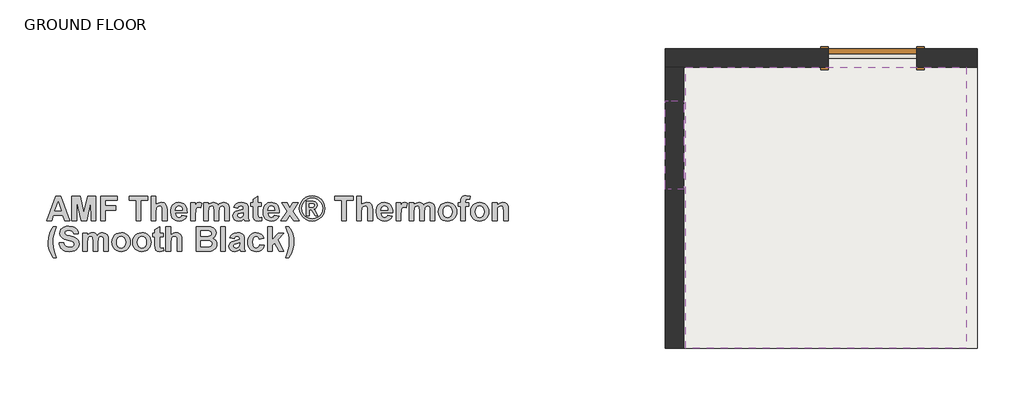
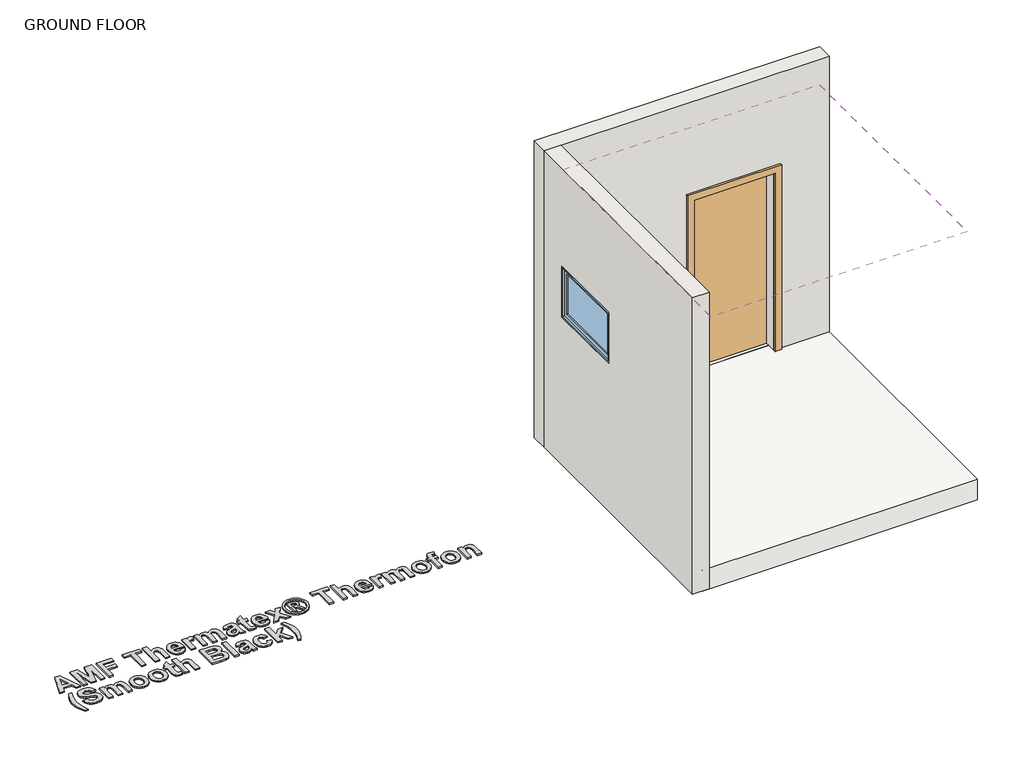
# One storey: 2 walls, 1 covering, 1 door, 1 proxy, 1 slab, 1 window.
"""IFC4 building model written with IfcOpenShell, lengths in millimetres."""

from ifc_helpers import new_model, si_unit, frame, origin, origin_with_axes, place, context, project, spatial, polyline, outline, extrude, faceted_brep, transform, mapped, element, save
from components import m_single_flush_0915_x_2134mm_f5238887, m_fixed_0915_x_0610mm_e83bb20a

model = new_model("IFC4")

# Units and contexts
model_context = context("Model", 3, world=origin())
ifc_project = project(units=[si_unit("LENGTHUNIT", "METRE", prefix="MILLI")], contexts=[model_context])

# Site, building, storey
site = spatial("IfcSite", under=ifc_project)
building = spatial("IfcBuilding", under=site)
storey = spatial("IfcBuildingStorey", under=building, Name="GROUND FLOOR", Elevation=0.0)

# Proxy
placement = place(None, origin())
element("IfcBuildingElementProxy", 1, Name="600mm Arial", ObjectType="600mm Arial", at=placement, inside=storey, context=model_context, shape_type="SweptSolid", body=[
    extrude(outline(polyline([(-7411.3659202, -26437.2370141), (-7462.4168463, -26437.2370141), (-7482.4070478, -26380.5559363), (-7578.752228, -26380.5559363), (-7598.489389, -26437.2370141), (-7650.2361766, -26437.2370141), (-7557.1172631, -26182.1721641), (-7505.3704756, -26182.1721641), (-7411.3659202, -26437.2370141)]), holes=[polyline([(-7497.9690402, -26336.0208038), (-7530.8010484, -26242.9018903), (-7563.1902357, -26336.0208038), (-7497.9690402, -26336.0208038)])]), origin_with_axes(), (0.0, 0.0, 1.0), 15.0),
    extrude(outline(polyline([(-7387.0740298, -26437.2370141), (-7387.0740298, -26182.1721641), (-7303.8236968, -26182.1721641), (-7263.5902532, -26356.1375256), (-7223.3568096, -26182.1721641), (-7140.1064766, -26182.1721641), (-7140.1064766, -26437.2370141), (-7188.6902575, -26437.2370141), (-7190.7145817, -26236.4493569), (-7235.123194, -26437.2370141), (-7291.9940522, -26437.2370141), (-7336.4659246, -26236.4493569), (-7338.4902488, -26437.2370141), (-7387.0740298, -26437.2370141)])), origin_with_axes(), (0.0, 0.0, 1.0), 15.0),
    extrude(outline(polyline([(-7091.5226956, -26437.2370141), (-7091.5226956, -26182.1721641), (-6917.4308139, -26182.1721641), (-6917.4308139, -26226.7072966), (-7042.9389147, -26226.7072966), (-7042.9389147, -26283.3883744), (-6933.6254076, -26283.3883744), (-6933.6254076, -26327.9235069), (-7042.9389147, -26327.9235069), (-7042.9389147, -26437.2370141), (-7091.5226956, -26437.2370141)])), origin_with_axes(), (0.0, 0.0, 1.0), 15.0),
    extrude(outline(polyline([(-6723.0956901, -26437.2370141), (-6723.0956901, -26226.7072966), (-6795.9713615, -26226.7072966), (-6795.9713615, -26182.1721641), (-6601.6362377, -26182.1721641), (-6601.6362377, -26226.7072966), (-6674.5119092, -26226.7072966), (-6674.5119092, -26437.2370141), (-6723.0956901, -26437.2370141)])), origin_with_axes(), (0.0, 0.0, 1.0), 15.0),
    extrude(outline(polyline([(-6520.6632695, -26182.1721641), (-6520.6632695, -26274.531956), (-6508.4580179, -26262.4650859), (-6495.1219914, -26253.845893), (-6480.6551901, -26248.6743773), (-6465.0576139, -26246.9505387), (-6449.2425811, -26248.5241345), (-6435.0723116, -26253.2449218), (-6423.3691873, -26260.4249467), (-6414.9555898, -26269.3762553), (-6405.7196106, -26291.1061104), (-6403.2524655, -26328.0500272), (-6403.2524655, -26437.2370141), (-6451.8362465, -26437.2370141), (-6451.8362465, -26338.1716482), (-6454.5564321, -26300.6900203), (-6464.1719721, -26288.0696241), (-6481.3787278, -26283.3883744), (-6492.6390312, -26284.8908025), (-6502.634132, -26289.3980869), (-6510.7393364, -26296.9260425), (-6516.3299505, -26307.4904845), (-6520.6632695, -26343.2957189), (-6520.6632695, -26437.2370141), (-6569.2470504, -26437.2370141), (-6569.2470504, -26182.1721641), (-6520.6632695, -26182.1721641)])), origin_with_axes(), (0.0, 0.0, 1.0), 15.0),
    extrude(outline(polyline([(-6249.4038258, -26380.5559363), (-6200.8200449, -26388.6532331), (-6212.6496895, -26411.3240827), (-6229.7931851, -26427.8428846), (-6252.0765664, -26437.924968), (-6279.325868, -26441.2856625), (-6301.3285325, -26439.3048296), (-6320.2709881, -26433.362331), (-6336.1532348, -26423.4581667), (-6348.9752727, -26409.5923366), (-6362.3547905, -26380.888052), (-6366.8146298, -26345.5098235), (-6365.3359242, -26323.6692631), (-6360.8998075, -26304.3274779), (-6353.5062796, -26287.4844679), (-6343.1553406, -26273.1402331), (-6330.5428519, -26261.6822418), (-6316.364675, -26253.4979623), (-6300.6208098, -26248.5873946), (-6283.3112563, -26246.9505387), (-6264.0762226, -26248.6308859), (-6246.9841258, -26253.6719277), (-6232.034966, -26262.0736639), (-6219.2287431, -26273.8360945), (-6209.0240932, -26289.069925), (-6201.8796521, -26307.8858603), (-6197.7954199, -26330.2839006), (-6196.7713965, -26356.2640458), (-6318.2308488, -26356.2640458), (-6315.1152874, -26376.7286983), (-6306.7807651, -26392.0692802), (-6294.4924845, -26401.6531901), (-6279.5156484, -26404.8478268), (-6269.3149522, -26403.4086588), (-6260.8539096, -26399.0911548), (-6254.1957808, -26391.5790142), (-6249.4038258, -26380.5559363)]), holes=[polyline([(-6245.3551774, -26327.9235069), (-6248.3125886, -26308.7161495), (-6256.1726599, -26294.743568), (-6267.5911136, -26286.2271728), (-6281.223672, -26283.3883744), (-6295.6153519, -26286.3774156), (-6307.2868461, -26295.3445392), (-6314.941322, -26309.4989937), (-6317.4084671, -26327.9235069), (-6245.3551774, -26327.9235069)])]), origin_with_axes(), (0.0, 0.0, 1.0), 15.0),
    extrude(outline(polyline([(-6111.7497798, -26437.2370141), (-6160.3335608, -26437.2370141), (-6160.3335608, -26250.9991871), (-6111.7497798, -26250.9991871), (-6111.7497798, -26276.935841), (-6092.3289195, -26252.7388407), (-6072.7182787, -26246.9505387), (-6057.5516622, -26249.512574), (-6042.9227568, -26257.19868), (-6057.0930262, -26303.4418361), (-6068.7961506, -26297.5111987), (-6079.613633, -26295.5343196), (-6096.7254986, -26301.0695811), (-6102.9724366, -26308.8268548), (-6107.7327615, -26321.0281526), (-6111.7497798, -26381.5048383), (-6111.7497798, -26437.2370141)])), origin_with_axes(), (0.0, 0.0, 1.0), 15.0),
    extrude(outline(polyline([(-6026.7281631, -26250.9991871), (-5978.1443822, -26250.9991871), (-5978.1443822, -26275.9236789), (-5966.1842636, -26263.24793), (-5953.1408152, -26254.1938237), (-5939.0140371, -26248.7613599), (-5923.8039293, -26246.9505387), (-5908.1549543, -26248.7297299), (-5894.7358989, -26254.0673035), (-5883.5309481, -26263.0107046), (-5874.5242869, -26275.6073782), (-5862.0857635, -26263.0107046), (-5848.6825232, -26254.0673035), (-5834.3303809, -26248.7297299), (-5819.0451516, -26246.9505387), (-5800.5890083, -26249.0302155), (-5785.2009813, -26255.269246), (-5773.0866661, -26265.5411098), (-5764.4516582, -26279.7192868), (-5760.7509405, -26295.2970941), (-5759.5173679, -26318.2447068), (-5759.5173679, -26437.2370141), (-5808.1011489, -26437.2370141), (-5808.1011489, -26330.0110913), (-5809.3347214, -26307.0634786), (-5813.0354391, -26294.0160765), (-5821.4174065, -26286.0452999), (-5833.4052014, -26283.3883744), (-5843.1077241, -26284.9777852), (-5852.2250906, -26289.7460176), (-5859.8163063, -26297.5823664), (-5864.940377, -26308.3761263), (-5868.8308751, -26347.1545869), (-5868.8308751, -26437.2370141), (-5917.414656, -26437.2370141), (-5917.414656, -26334.4393005), (-5919.9450613, -26299.1085171), (-5927.7576875, -26287.2788725), (-5942.1493674, -26283.3883744), (-5952.539844, -26284.9303401), (-5961.8232683, -26289.5562372), (-5969.3195939, -26297.1000079), (-5974.3487743, -26307.3955943), (-5978.1443822, -26346.0791647), (-5978.1443822, -26437.2370141), (-6026.7281631, -26437.2370141), (-6026.7281631, -26250.9991871)])), origin_with_axes(), (0.0, 0.0, 1.0), 15.0),
    extrude(outline(polyline([(-5670.4471028, -26307.6802649), (-5714.9822354, -26299.582968), (-5705.3271578, -26276.2399795), (-5690.5321946, -26259.8556055), (-5668.9683973, -26250.1768054), (-5639.0068175, -26246.9505387), (-5611.9156662, -26248.9036952), (-5592.7636614, -26254.7631649), (-5579.8269645, -26263.6195833), (-5571.381737, -26274.5635861), (-5566.7321173, -26291.5726539), (-5565.1822441, -26318.6242676), (-5565.1822441, -26376.064467), (-5562.6202088, -26412.2492622), (-5553.0362989, -26437.2370141), (-5601.6200798, -26437.2370141), (-5606.1748093, -26421.801542), (-5607.8828328, -26415.6653093), (-5633.8827469, -26434.8647591), (-5648.1953516, -26439.6804367), (-5663.4252283, -26441.2856625), (-5688.1994772, -26437.3872569), (-5707.106349, -26425.6920401), (-5719.0862364, -26408.0503709), (-5723.0795322, -26386.3126083), (-5721.300341, -26371.4148473), (-5715.9627674, -26358.2251099), (-5707.4147422, -26347.3285523), (-5696.0041959, -26339.3103306), (-5658.9970191, -26327.8602468), (-5613.7660251, -26315.7775617), (-5613.7660251, -26310.6534911), (-5615.2763607, -26298.0330948), (-5619.8073676, -26289.6511274), (-5628.5135432, -26284.9540627), (-5642.5493849, -26283.3883744), (-5652.6235608, -26284.7326522), (-5660.1989616, -26288.7654856), (-5670.4471028, -26307.6802649)]), holes=[polyline([(-5613.7660251, -26352.2153974), (-5641.157662, -26358.9526014), (-5665.702593, -26366.6387074), (-5672.2974617, -26373.5498767), (-5674.4957513, -26382.1374396), (-5672.7323751, -26390.748725), (-5667.4422466, -26398.1106228), (-5659.4319325, -26403.1635258), (-5649.5079993, -26404.8478268), (-5637.5992796, -26402.8867627), (-5626.2915311, -26397.0035705), (-5615.5373087, -26382.4537402), (-5613.7660251, -26361.0085557), (-5613.7660251, -26352.2153974)])]), origin_with_axes(), (0.0, 0.0, 1.0), 15.0),
    extrude(outline(polyline([(-5427.5281981, -26250.9991871), (-5427.5281981, -26287.4370228), (-5463.9660338, -26287.4370228), (-5463.9660338, -26367.3345688), (-5462.8589815, -26395.5802175), (-5457.8298011, -26402.2225313), (-5448.2775212, -26404.8478268), (-5425.5038739, -26400.166577), (-5423.4795497, -26434.7066088), (-5442.2203636, -26439.6408991), (-5463.2701724, -26441.2856625), (-5487.8151034, -26436.730933), (-5503.8515467, -26424.9645486), (-5510.9683115, -26405.417168), (-5512.5498148, -26370.0547545), (-5512.5498148, -26287.4370228), (-5536.8417052, -26287.4370228), (-5536.8417052, -26250.9991871), (-5512.5498148, -26250.9991871), (-5512.5498148, -26214.5613514), (-5463.9660338, -26186.2208125), (-5463.9660338, -26250.9991871), (-5427.5281981, -26250.9991871)])), origin_with_axes(), (0.0, 0.0, 1.0), 15.0),
    extrude(outline(polyline([(-5293.9228005, -26380.5559363), (-5245.3390195, -26388.6532331), (-5257.1686641, -26411.3240827), (-5274.3121597, -26427.8428846), (-5296.595541, -26437.924968), (-5323.8448427, -26441.2856625), (-5345.8475071, -26439.3048296), (-5364.7899627, -26433.362331), (-5380.6722095, -26423.4581667), (-5393.4942474, -26409.5923366), (-5406.8737652, -26380.888052), (-5411.3336044, -26345.5098235), (-5409.8548989, -26323.6692631), (-5405.4187822, -26304.3274779), (-5398.0252543, -26287.4844679), (-5387.6743153, -26273.1402331), (-5375.0618266, -26261.6822418), (-5360.8836496, -26253.4979623), (-5345.1397844, -26248.5873946), (-5327.8302309, -26246.9505387), (-5308.5951972, -26248.6308859), (-5291.5031005, -26253.6719277), (-5276.5539406, -26262.0736639), (-5263.7477178, -26273.8360945), (-5253.5430678, -26289.069925), (-5246.3986267, -26307.8858603), (-5242.3143945, -26330.2839006), (-5241.2903711, -26356.2640458), (-5362.7498235, -26356.2640458), (-5359.634262, -26376.7286983), (-5351.2997397, -26392.0692802), (-5339.0114592, -26401.6531901), (-5324.034623, -26404.8478268), (-5313.8339269, -26403.4086588), (-5305.3728843, -26399.0911548), (-5298.7147554, -26391.5790142), (-5293.9228005, -26380.5559363)]), holes=[polyline([(-5289.8741521, -26327.9235069), (-5292.8315632, -26308.7161495), (-5300.6916345, -26294.743568), (-5312.1100883, -26286.2271728), (-5325.7426466, -26283.3883744), (-5340.1343265, -26286.3774156), (-5351.8058208, -26295.3445392), (-5359.4602967, -26309.4989937), (-5361.9274418, -26327.9235069), (-5289.8741521, -26327.9235069)])]), origin_with_axes(), (0.0, 0.0, 1.0), 15.0),
    extrude(outline(polyline([(-5227.1201017, -26437.2370141), (-5161.329565, -26341.3346548), (-5219.0228048, -26250.9991871), (-5161.2663048, -26250.9991871), (-5133.1788065, -26302.1766334), (-5102.6874231, -26250.9991871), (-5044.9309231, -26250.9991871), (-5104.3321865, -26339.1838103), (-5036.8336263, -26437.2370141), (-5094.5901263, -26437.2370141), (-5133.1788065, -26379.5437742), (-5169.3636017, -26437.2370141), (-5227.1201017, -26437.2370141)])), origin_with_axes(), (0.0, 0.0, 1.0), 15.0),
    extrude(outline(polyline([(-4903.2282287, -26178.1235157), (-4870.0720123, -26182.354037), (-4838.2917037, -26195.0456008), (-4810.5284136, -26215.6367736), (-4789.4232522, -26243.5661217), (-4776.0911795, -26275.8999563), (-4771.6471553, -26309.7045891), (-4776.0041968, -26343.2640888), (-4789.0753215, -26375.2420853), (-4809.9432573, -26402.9895604), (-4837.6907325, -26423.8574963), (-4869.6687289, -26436.9286209), (-4903.2282287, -26441.2856625), (-4936.7877284, -26436.9286209), (-4968.7657248, -26423.8574963), (-4996.5132, -26402.9895604), (-5017.3811359, -26375.2420853), (-5030.4522605, -26343.2640888), (-5034.8093021, -26309.7045891), (-5030.3652778, -26275.8999563), (-5017.0332051, -26243.5661217), (-4995.9280438, -26215.6367736), (-4968.1647536, -26195.0456008), (-4936.3844451, -26182.354037), (-4903.2282287, -26178.1235157)]), holes=[polyline([(-4903.2914888, -26202.4154061), (-4930.2956574, -26205.8551758), (-4956.1453286, -26216.1744847), (-4978.7371031, -26232.9305121), (-4995.9675814, -26255.6804368), (-5006.879954, -26282.0440966), (-5010.5174116, -26309.6413289), (-5006.9669367, -26337.0092433), (-4996.3155121, -26363.06451), (-4979.2985367, -26385.6800069), (-4956.6514097, -26402.7286124), (-4930.580328, -26413.4274821), (-4903.2914888, -26416.993772), (-4875.931482, -26413.4274821), (-4849.8999379, -26402.7286124), (-4827.3002559, -26385.6800069), (-4810.2358354, -26363.06451), (-4799.5132432, -26337.0092433), (-4795.9390457, -26309.6413289), (-4799.5765033, -26282.0440966), (-4810.488876, -26255.6804368), (-4827.7430768, -26232.9305121), (-4850.4060189, -26216.1744847), (-4876.3110427, -26205.8551758), (-4903.2914888, -26202.4154061)])]), origin_with_axes(), (0.0, 0.0, 1.0), 15.0),
    extrude(outline(polyline([(-4961.9336307, -26384.6045847), (-4961.9336307, -26234.8045934), (-4934.5419937, -26234.8045934), (-4891.4618442, -26235.1841542), (-4870.3013303, -26241.1622367), (-4857.680934, -26255.5539166), (-4852.6201235, -26276.9991011), (-4854.9686559, -26292.0233823), (-4862.014253, -26304.7070387), (-4873.314094, -26314.0379081), (-4888.4253579, -26319.0038284), (-4878.6516676, -26324.6339801), (-4869.194278, -26336.147324), (-4858.8828765, -26354.3662419), (-4844.5228267, -26384.6045847), (-4872.8633656, -26384.6045847), (-4886.8438546, -26360.6289949), (-4908.2574091, -26330.1376115), (-4916.4733187, -26325.4405468), (-4926.6344773, -26323.8748585), (-4933.5930918, -26323.8748585), (-4933.5930918, -26384.6045847), (-4961.9336307, -26384.6045847)]), holes=[polyline([(-4933.5930918, -26299.582968), (-4922.5225688, -26299.582968), (-4893.2331279, -26297.5902739), (-4884.2501892, -26290.5683993), (-4880.9606624, -26279.1499456), (-4884.1869291, -26268.1110527), (-4893.3596482, -26261.1840683), (-4922.5225688, -26259.0964839), (-4933.5930918, -26259.0964839), (-4933.5930918, -26299.582968)])]), origin_with_axes(), (0.0, 0.0, 1.0), 15.0),
    extrude(outline(polyline([(-4597.5552735, -26437.2370141), (-4597.5552735, -26226.7072966), (-4670.430945, -26226.7072966), (-4670.430945, -26182.1721641), (-4476.0958211, -26182.1721641), (-4476.0958211, -26226.7072966), (-4548.9714926, -26226.7072966), (-4548.9714926, -26437.2370141), (-4597.5552735, -26437.2370141)])), origin_with_axes(), (0.0, 0.0, 1.0), 15.0),
    extrude(outline(polyline([(-4395.1228529, -26182.1721641), (-4395.1228529, -26274.531956), (-4382.9176013, -26262.4650859), (-4369.5815748, -26253.845893), (-4355.1147735, -26248.6743773), (-4339.5171974, -26246.9505387), (-4323.7021645, -26248.5241345), (-4309.5318951, -26253.2449218), (-4297.8287707, -26260.4249467), (-4289.4151733, -26269.3762553), (-4280.1791941, -26291.1061104), (-4277.7120489, -26328.0500272), (-4277.7120489, -26437.2370141), (-4326.2958299, -26437.2370141), (-4326.2958299, -26338.1716482), (-4329.0160155, -26300.6900203), (-4338.6315555, -26288.0696241), (-4355.8383113, -26283.3883744), (-4367.0986147, -26284.8908025), (-4377.0937154, -26289.3980869), (-4385.1989198, -26296.9260425), (-4390.7895339, -26307.4904845), (-4395.1228529, -26343.2957189), (-4395.1228529, -26437.2370141), (-4443.7066338, -26437.2370141), (-4443.7066338, -26182.1721641), (-4395.1228529, -26182.1721641)])), origin_with_axes(), (0.0, 0.0, 1.0), 15.0),
    extrude(outline(polyline([(-4123.8634093, -26380.5559363), (-4075.2796283, -26388.6532331), (-4087.1092729, -26411.3240827), (-4104.2527685, -26427.8428846), (-4126.5361498, -26437.924968), (-4153.7854514, -26441.2856625), (-4175.7881159, -26439.3048296), (-4194.7305715, -26433.362331), (-4210.6128183, -26423.4581667), (-4223.4348562, -26409.5923366), (-4236.814374, -26380.888052), (-4241.2742132, -26345.5098235), (-4239.7955077, -26323.6692631), (-4235.3593909, -26304.3274779), (-4227.9658631, -26287.4844679), (-4217.6149241, -26273.1402331), (-4205.0024354, -26261.6822418), (-4190.8242584, -26253.4979623), (-4175.0803932, -26248.5873946), (-4157.7708397, -26246.9505387), (-4138.535806, -26248.6308859), (-4121.4437092, -26253.6719277), (-4106.4945494, -26262.0736639), (-4093.6883266, -26273.8360945), (-4083.4836766, -26289.069925), (-4076.3392355, -26307.8858603), (-4072.2550033, -26330.2839006), (-4071.2309799, -26356.2640458), (-4192.6904323, -26356.2640458), (-4189.5748708, -26376.7286983), (-4181.2403485, -26392.0692802), (-4168.9520679, -26401.6531901), (-4153.9752318, -26404.8478268), (-4143.7745356, -26403.4086588), (-4135.3134931, -26399.0911548), (-4128.6553642, -26391.5790142), (-4123.8634093, -26380.5559363)]), holes=[polyline([(-4119.8147608, -26327.9235069), (-4122.772172, -26308.7161495), (-4130.6322433, -26294.743568), (-4142.050697, -26286.2271728), (-4155.6832554, -26283.3883744), (-4170.0749353, -26286.3774156), (-4181.7464295, -26295.3445392), (-4189.4009054, -26309.4989937), (-4191.8680506, -26327.9235069), (-4119.8147608, -26327.9235069)])]), origin_with_axes(), (0.0, 0.0, 1.0), 15.0),
    extrude(outline(polyline([(-3986.2093632, -26437.2370141), (-4034.7931442, -26437.2370141), (-4034.7931442, -26250.9991871), (-3986.2093632, -26250.9991871), (-3986.2093632, -26276.935841), (-3966.7885029, -26252.7388407), (-3947.1778621, -26246.9505387), (-3932.0112456, -26249.512574), (-3917.3823402, -26257.19868), (-3931.5526097, -26303.4418361), (-3943.255734, -26297.5111987), (-3954.0732165, -26295.5343196), (-3971.185082, -26301.0695811), (-3977.43202, -26308.8268548), (-3982.1923449, -26321.0281526), (-3986.2093632, -26381.5048383), (-3986.2093632, -26437.2370141)])), origin_with_axes(), (0.0, 0.0, 1.0), 15.0),
    extrude(outline(polyline([(-3901.1877466, -26250.9991871), (-3852.6039656, -26250.9991871), (-3852.6039656, -26275.9236789), (-3840.643847, -26263.24793), (-3827.6003987, -26254.1938237), (-3813.4736206, -26248.7613599), (-3798.2635127, -26246.9505387), (-3782.6145377, -26248.7297299), (-3769.1954823, -26254.0673035), (-3757.9905315, -26263.0107046), (-3748.9838703, -26275.6073782), (-3736.545347, -26263.0107046), (-3723.1421066, -26254.0673035), (-3708.7899643, -26248.7297299), (-3693.504735, -26246.9505387), (-3675.0485917, -26249.0302155), (-3659.6605647, -26255.269246), (-3647.5462495, -26265.5411098), (-3638.9112416, -26279.7192868), (-3635.2105239, -26295.2970941), (-3633.9769513, -26318.2447068), (-3633.9769513, -26437.2370141), (-3682.5607323, -26437.2370141), (-3682.5607323, -26330.0110913), (-3683.7943049, -26307.0634786), (-3687.4950225, -26294.0160765), (-3695.87699, -26286.0452999), (-3707.8647849, -26283.3883744), (-3717.5673075, -26284.9777852), (-3726.684674, -26289.7460176), (-3734.2758898, -26297.5823664), (-3739.3999604, -26308.3761263), (-3743.2904585, -26347.1545869), (-3743.2904585, -26437.2370141), (-3791.8742394, -26437.2370141), (-3791.8742394, -26334.4393005), (-3794.4046447, -26299.1085171), (-3802.2172709, -26287.2788725), (-3816.6089508, -26283.3883744), (-3826.9994274, -26284.9303401), (-3836.2828517, -26289.5562372), (-3843.7791773, -26297.1000079), (-3848.8083577, -26307.3955943), (-3852.6039656, -26346.0791647), (-3852.6039656, -26437.2370141), (-3901.1877466, -26437.2370141), (-3901.1877466, -26250.9991871)])), origin_with_axes(), (0.0, 0.0, 1.0), 15.0),
    extrude(outline(polyline([(-3597.5391156, -26341.4611751), (-3594.5421669, -26317.3669725), (-3585.5513207, -26294.0477065), (-3571.0726581, -26273.828187), (-3551.6122602, -26259.0332238), (-3528.3799769, -26249.97121), (-3502.5856583, -26246.9505387), (-3482.5934799, -26248.662516), (-3464.4951517, -26253.7984479), (-3448.2906736, -26262.3583345), (-3433.9800458, -26274.3421756), (-3422.2868059, -26288.9434047), (-3413.9344916, -26305.355455), (-3408.9231031, -26323.5783267), (-3407.2526402, -26343.6120195), (-3408.940895, -26363.8058396), (-3414.0056593, -26382.1927922), (-3422.4469331, -26398.7728773), (-3434.2647164, -26413.5460948), (-3448.6405812, -26425.6821557), (-3464.7560997, -26434.3507706), (-3482.6112718, -26439.5519395), (-3502.2060975, -26441.2856625), (-3526.9803465, -26438.399419), (-3550.568468, -26429.7406885), (-3570.8117101, -26415.4992514), (-3585.5513207, -26395.8648881), (-3594.5421669, -26371.0985466), (-3597.5391156, -26341.4611751)]), holes=[polyline([(-3548.9553347, -26344.1181006), (-3545.5946402, -26370.0942921), (-3535.5125567, -26389.1909442), (-3520.496183, -26400.9336061), (-3502.3326178, -26404.8478268), (-3484.1848676, -26400.9336061), (-3469.215939, -26389.1909442), (-3459.1813006, -26369.9994019), (-3455.8364212, -26343.7385398), (-3459.1813006, -26318.0470189), (-3469.215939, -26299.0452569), (-3484.1848676, -26287.302595), (-3502.3326178, -26283.3883744), (-3520.496183, -26287.302595), (-3535.5125567, -26299.0452569), (-3545.5946402, -26318.1419091), (-3548.9553347, -26344.1181006)])]), origin_with_axes(), (0.0, 0.0, 1.0), 15.0),
    extrude(outline(polyline([(-3391.0580466, -26250.9991871), (-3366.7661561, -26250.9991871), (-3366.7661561, -26237.3982588), (-3365.5325836, -26217.5187625), (-3361.8318659, -26203.4275683), (-3354.8258063, -26193.2664096), (-3343.6762081, -26185.1770203), (-3328.699372, -26179.8868918), (-3310.2115986, -26178.1235157), (-3269.5985942, -26184.1964883), (-3275.6715668, -26217.281537), (-3298.2554338, -26214.5613514), (-3307.3886152, -26215.7791089), (-3313.5327555, -26219.4323815), (-3317.0199703, -26226.5491463), (-3318.1823752, -26238.1573804), (-3318.1823752, -26250.9991871), (-3281.7445395, -26250.9991871), (-3281.7445395, -26287.4370228), (-3318.1823752, -26287.4370228), (-3318.1823752, -26437.2370141), (-3366.7661561, -26437.2370141), (-3366.7661561, -26287.4370228), (-3391.0580466, -26287.4370228), (-3391.0580466, -26250.9991871)])), origin_with_axes(), (0.0, 0.0, 1.0), 15.0),
    extrude(outline(polyline([(-3265.5499458, -26341.4611751), (-3262.5529971, -26317.3669725), (-3253.5621509, -26294.0477065), (-3239.0834883, -26273.828187), (-3219.6230904, -26259.0332238), (-3196.3908071, -26249.97121), (-3170.5964885, -26246.9505387), (-3150.6043101, -26248.662516), (-3132.5059819, -26253.7984479), (-3116.3015038, -26262.3583345), (-3101.990876, -26274.3421756), (-3090.297636, -26288.9434047), (-3081.9453218, -26305.355455), (-3076.9339333, -26323.5783267), (-3075.2634704, -26343.6120195), (-3076.9517252, -26363.8058396), (-3082.0164894, -26382.1927922), (-3090.4577632, -26398.7728773), (-3102.2755465, -26413.5460948), (-3116.6514114, -26425.6821557), (-3132.7669299, -26434.3507706), (-3150.622102, -26439.5519395), (-3170.2169277, -26441.2856625), (-3194.9911767, -26438.399419), (-3218.5792982, -26429.7406885), (-3238.8225403, -26415.4992514), (-3253.5621509, -26395.8648881), (-3262.5529971, -26371.0985466), (-3265.5499458, -26341.4611751)]), holes=[polyline([(-3216.9661649, -26344.1181006), (-3213.6054704, -26370.0942921), (-3203.5233869, -26389.1909442), (-3188.5070132, -26400.9336061), (-3170.343448, -26404.8478268), (-3152.1956978, -26400.9336061), (-3137.2267692, -26389.1909442), (-3127.1921308, -26369.9994019), (-3123.8472514, -26343.7385398), (-3127.1921308, -26318.0470189), (-3137.2267692, -26299.0452569), (-3152.1956978, -26287.302595), (-3170.343448, -26283.3883744), (-3188.5070132, -26287.302595), (-3203.5233869, -26299.0452569), (-3213.6054704, -26318.1419091), (-3216.9661649, -26344.1181006)])]), origin_with_axes(), (0.0, 0.0, 1.0), 15.0),
    extrude(outline(polyline([(-2872.8310498, -26437.2370141), (-2921.4148307, -26437.2370141), (-2921.4148307, -26341.5244352), (-2924.451317, -26302.1766334), (-2934.3831577, -26288.3226647), (-2950.894052, -26283.3883744), (-2962.6525289, -26285.1517506), (-2973.1299882, -26290.4418791), (-2981.4170654, -26298.6498811), (-2986.6043962, -26309.166878), (-2990.2418538, -26352.2786575), (-2990.2418538, -26437.2370141), (-3038.8256347, -26437.2370141), (-3038.8256347, -26250.9991871), (-2990.2418538, -26250.9991871), (-2990.2418538, -26277.8214828), (-2977.9496195, -26264.3154448), (-2964.1628646, -26254.6682747), (-2948.8815891, -26248.8799727), (-2932.105793, -26246.9505387), (-2903.8917743, -26252.8337309), (-2884.5341741, -26267.8263821), (-2875.3930851, -26288.480815), (-2872.8310498, -26321.5974938), (-2872.8310498, -26437.2370141)])), origin_with_axes(), (0.0, 0.0, 1.0), 15.0),
    extrude(outline(polyline([(-7549.0199663, -26820.8424117), (-7581.4091536, -26820.8424117), (-7604.0800032, -26781.1704018), (-7620.598805, -26739.9643336), (-7630.6808884, -26698.6633753), (-7634.0415829, -26658.7066948), (-7629.9296744, -26611.3090413), (-7617.5939487, -26566.5366833), (-7601.3993551, -26530.2569979), (-7581.4091536, -26496.9505387), (-7549.0199663, -26496.9505387), (-7566.5825603, -26544.1900418), (-7577.6451757, -26583.8066992), (-7583.5046454, -26620.6873558), (-7585.457802, -26659.7188569), (-7580.7765522, -26716.3683046), (-7567.9347456, -26771.436249), (-7549.0199663, -26820.8424117)])), origin_with_axes(), (0.0, 0.0, 1.0), 15.0),
    extrude(outline(polyline([(-7520.6794274, -26666.993772), (-7472.0956464, -26662.9451236), (-7465.0105117, -26684.6749788), (-7453.117607, -26699.7625201), (-7436.3378571, -26708.5873084), (-7414.5921869, -26711.5289045), (-7392.024135, -26708.9273316), (-7375.8137264, -26701.1226129), (-7366.0400361, -26689.838587), (-7362.7821393, -26676.7990924), (-7368.1908805, -26661.5850308), (-7387.1372899, -26650.6726581), (-7429.2685374, -26639.8551756), (-7465.2319222, -26628.6739474), (-7488.6065407, -26614.993944), (-7506.5882331, -26591.6984006), (-7512.5821305, -26563.8164976), (-7509.8303148, -26545.0282386), (-7501.5748677, -26527.5051822), (-7488.1320897, -26512.6232363), (-7469.8182817, -26501.7583087), (-7446.9339291, -26495.1159949), (-7419.7795177, -26492.9018903), (-7377.814328, -26498.4213367), (-7361.2737805, -26505.3206448), (-7347.6945979, -26514.9796761), (-7337.0332889, -26526.9397947), (-7329.2463621, -26540.7423647), (-7324.3338175, -26556.3873859), (-7322.2956552, -26573.8748585), (-7370.8794361, -26573.8748585), (-7376.2486398, -26557.1820913), (-7385.5241565, -26545.9455105), (-7399.5599982, -26539.5641447), (-7419.2101765, -26537.4370228), (-7439.8962395, -26539.6985725), (-7455.521492, -26546.4832216), (-7461.8791352, -26553.2836857), (-7463.9983496, -26562.0452139), (-7462.0689156, -26570.3164761), (-7456.2806136, -26577.2909056), (-7439.4771411, -26585.4593701), (-7408.6773646, -26593.8966901), (-7375.8058188, -26602.6740334), (-7352.7870385, -26611.8625675), (-7336.655705, -26622.9884431), (-7324.4464996, -26637.5778109), (-7316.7603937, -26655.8125438), (-7314.1983583, -26677.8745146), (-7317.2269371, -26698.9401384), (-7326.3126735, -26718.6140393), (-7340.9415789, -26735.1565636), (-7360.5996647, -26746.8280579), (-7385.500434, -26753.7550423), (-7415.8573896, -26756.0640371), (-7438.5598692, -26754.642661), (-7458.4630881, -26750.3785328), (-7475.5670461, -26743.2716524), (-7489.8717434, -26733.3220198), (-7501.4760237, -26720.6482479), (-7510.4787312, -26705.3689492), (-7516.8798657, -26687.484124), (-7520.6794274, -26666.993772)])), origin_with_axes(), (0.0, 0.0, 1.0), 15.0),
    extrude(outline(polyline([(-7277.7605226, -26565.7775617), (-7229.1767417, -26565.7775617), (-7229.1767417, -26590.7020535), (-7217.2166231, -26578.0263046), (-7204.1731747, -26568.9721983), (-7190.0463966, -26563.5397345), (-7174.8362888, -26561.7289133), (-7159.1873137, -26563.5081045), (-7145.7682584, -26568.8456781), (-7134.5633076, -26577.7890792), (-7125.5566464, -26590.3857528), (-7113.118123, -26577.7890792), (-7099.7148827, -26568.8456781), (-7085.3627403, -26563.5081045), (-7070.0775111, -26561.7289133), (-7051.6213677, -26563.8085901), (-7036.2333408, -26570.0476206), (-7024.1190256, -26580.3194844), (-7015.4840176, -26594.4976614), (-7011.7833, -26610.0754687), (-7010.5497274, -26633.0230814), (-7010.5497274, -26752.0153887), (-7059.1335083, -26752.0153887), (-7059.1335083, -26644.7894659), (-7060.3670809, -26621.8418532), (-7064.0677986, -26608.7944511), (-7072.449766, -26600.8236745), (-7084.4375609, -26598.166749), (-7094.1400836, -26599.7561598), (-7103.25745, -26604.5243922), (-7110.8486658, -26612.360741), (-7115.9727364, -26623.1545009), (-7119.8632345, -26661.9329615), (-7119.8632345, -26752.0153887), (-7168.4470155, -26752.0153887), (-7168.4470155, -26649.2176751), (-7170.9774207, -26613.8868917), (-7178.790047, -26602.0572471), (-7193.1817269, -26598.166749), (-7203.5722035, -26599.7087147), (-7212.8556278, -26604.3346118), (-7220.3519533, -26611.8783825), (-7225.3811338, -26622.1739689), (-7229.1767417, -26660.8575393), (-7229.1767417, -26752.0153887), (-7277.7605226, -26752.0153887), (-7277.7605226, -26565.7775617)])), origin_with_axes(), (0.0, 0.0, 1.0), 15.0),
    extrude(outline(polyline([(-6974.1118917, -26656.2395497), (-6971.114943, -26632.1453471), (-6962.1240968, -26608.8260811), (-6947.6454342, -26588.6065616), (-6928.1850362, -26573.8115984), (-6904.952753, -26564.7495846), (-6879.1584344, -26561.7289133), (-6859.166256, -26563.4408906), (-6841.0679277, -26568.5768225), (-6824.8634497, -26577.1367091), (-6810.5528218, -26589.1205502), (-6798.8595819, -26603.7217793), (-6790.5072677, -26620.1338296), (-6785.4958791, -26638.3567013), (-6783.8254163, -26658.3903941), (-6785.513671, -26678.5842142), (-6790.5784353, -26696.9711668), (-6799.0197091, -26713.5512519), (-6810.8374924, -26728.3244694), (-6825.2133573, -26740.4605303), (-6841.3288758, -26749.1291452), (-6859.1840479, -26754.3303141), (-6878.7788736, -26756.0640371), (-6903.5531226, -26753.1777936), (-6927.1412441, -26744.5190631), (-6947.3844861, -26730.277626), (-6962.1240968, -26710.6432627), (-6971.114943, -26685.8769212), (-6974.1118917, -26656.2395497)]), holes=[polyline([(-6925.5281107, -26658.8964752), (-6922.1674162, -26684.8726667), (-6912.0853328, -26703.9693188), (-6897.0689591, -26715.7119807), (-6878.9053939, -26719.6262014), (-6860.7576436, -26715.7119807), (-6845.788715, -26703.9693188), (-6835.7540767, -26684.7777765), (-6832.4091972, -26658.5169144), (-6835.7540767, -26632.8253935), (-6845.788715, -26613.8236315), (-6860.7576436, -26602.0809696), (-6878.9053939, -26598.166749), (-6897.0689591, -26602.0809696), (-6912.0853328, -26613.8236315), (-6922.1674162, -26632.9202837), (-6925.5281107, -26658.8964752)])]), origin_with_axes(), (0.0, 0.0, 1.0), 15.0),
    extrude(outline(polyline([(-6759.5335258, -26656.2395497), (-6756.5365771, -26632.1453471), (-6747.5457309, -26608.8260811), (-6733.0670683, -26588.6065616), (-6713.6066704, -26573.8115984), (-6690.3743871, -26564.7495846), (-6664.5800685, -26561.7289133), (-6644.5878901, -26563.4408906), (-6626.4895619, -26568.5768225), (-6610.2850838, -26577.1367091), (-6595.974456, -26589.1205502), (-6584.281216, -26603.7217793), (-6575.9289018, -26620.1338296), (-6570.9175133, -26638.3567013), (-6569.2470504, -26658.3903941), (-6570.9353052, -26678.5842142), (-6576.0000695, -26696.9711668), (-6584.4413432, -26713.5512519), (-6596.2591266, -26728.3244694), (-6610.6349914, -26740.4605303), (-6626.7505099, -26749.1291452), (-6644.605682, -26754.3303141), (-6664.2005077, -26756.0640371), (-6688.9747567, -26753.1777936), (-6712.5628782, -26744.5190631), (-6732.8061203, -26730.277626), (-6747.5457309, -26710.6432627), (-6756.5365771, -26685.8769212), (-6759.5335258, -26656.2395497)]), holes=[polyline([(-6710.9497449, -26658.8964752), (-6707.5890504, -26684.8726667), (-6697.5069669, -26703.9693188), (-6682.4905932, -26715.7119807), (-6664.327028, -26719.6262014), (-6646.1792778, -26715.7119807), (-6631.2103492, -26703.9693188), (-6621.1757108, -26684.7777765), (-6617.8308314, -26658.5169144), (-6621.1757108, -26632.8253935), (-6631.2103492, -26613.8236315), (-6646.1792778, -26602.0809696), (-6664.327028, -26598.166749), (-6682.4905932, -26602.0809696), (-6697.5069669, -26613.8236315), (-6707.5890504, -26632.9202837), (-6710.9497449, -26658.8964752)])]), origin_with_axes(), (0.0, 0.0, 1.0), 15.0),
    extrude(outline(polyline([(-6443.7389496, -26565.7775617), (-6443.7389496, -26602.2153974), (-6480.1767854, -26602.2153974), (-6480.1767854, -26682.1129434), (-6479.0697331, -26710.3585921), (-6474.0405526, -26717.0009059), (-6464.4882728, -26719.6262014), (-6441.7146254, -26714.9449516), (-6439.6903012, -26749.4849834), (-6458.4311152, -26754.4192737), (-6479.4809239, -26756.0640371), (-6504.0258549, -26751.5093076), (-6520.0622982, -26739.7429232), (-6527.179063, -26720.1955426), (-6528.7605663, -26684.8331291), (-6528.7605663, -26602.2153974), (-6553.0524568, -26602.2153974), (-6553.0524568, -26565.7775617), (-6528.7605663, -26565.7775617), (-6528.7605663, -26529.339726), (-6480.1767854, -26500.9991871), (-6480.1767854, -26565.7775617), (-6443.7389496, -26565.7775617)])), origin_with_axes(), (0.0, 0.0, 1.0), 15.0),
    extrude(outline(polyline([(-6366.8146298, -26496.9505387), (-6366.8146298, -26589.3103306), (-6354.6093782, -26577.2434605), (-6341.2733517, -26568.6242676), (-6326.8065504, -26563.4527519), (-6311.2089743, -26561.7289133), (-6295.3939414, -26563.3025091), (-6281.223672, -26568.0232964), (-6269.5205476, -26575.2033213), (-6261.1069502, -26584.1546299), (-6251.870971, -26605.884485), (-6249.4038258, -26642.8284018), (-6249.4038258, -26752.0153887), (-6297.9876068, -26752.0153887), (-6297.9876068, -26652.9500228), (-6300.7077924, -26615.4683949), (-6310.3233324, -26602.8479987), (-6327.5300882, -26598.166749), (-6338.7903916, -26599.6691771), (-6348.7854923, -26604.1764615), (-6356.8906967, -26611.7044171), (-6362.4813108, -26622.2688591), (-6366.8146298, -26658.0740935), (-6366.8146298, -26752.0153887), (-6415.3984107, -26752.0153887), (-6415.3984107, -26496.9505387), (-6366.8146298, -26496.9505387)])), origin_with_axes(), (0.0, 0.0, 1.0), 15.0),
    extrude(outline(polyline([(-6103.652483, -26496.9505387), (-5998.9569654, -26496.9505387), (-5952.6189192, -26499.4809439), (-5925.2905424, -26510.077016), (-5914.2437419, -26519.4711455), (-5905.2054506, -26531.5222005), (-5899.1799231, -26545.7161925), (-5897.1714139, -26561.5391329), (-5899.5673914, -26578.7775187), (-5906.7553239, -26594.5609215), (-5918.0551648, -26607.7348439), (-5932.786868, -26617.1447884), (-5914.1567592, -26626.2858774), (-5900.3976807, -26640.1714763), (-5891.905008, -26657.8684981), (-5889.0741171, -26678.4438558), (-5891.1063488, -26695.5319988), (-5897.203044, -26712.1298758), (-5906.818584, -26726.8378564), (-5919.4073501, -26738.2563101), (-5935.1195853, -26746.155919), (-5954.1055322, -26750.3073651), (-6016.4800219, -26752.0153887), (-6103.652483, -26752.0153887), (-6103.652483, -26496.9505387)]), holes=[polyline([(-6055.068702, -26541.4856712), (-6055.068702, -26598.166749), (-6017.998265, -26598.166749), (-5976.8791796, -26597.3443673), (-5963.9345752, -26594.3869561), (-5954.0739022, -26588.551209), (-5947.8348717, -26580.1217965), (-5945.7551949, -26569.3833892), (-5947.5502011, -26559.1115253), (-5952.9352198, -26550.9430609), (-5961.8469908, -26545.2259265), (-5974.222254, -26542.3080529), (-6022.5529945, -26541.4856712), (-6055.068702, -26541.4856712)]), polyline([(-6055.068702, -26642.7018815), (-6055.068702, -26707.4802561), (-6003.7014753, -26707.4802561), (-5965.6188762, -26705.962013), (-5954.3743878, -26702.5696884), (-5945.4388942, -26696.3148429), (-5939.6031471, -26687.3239968), (-5937.6578981, -26675.7236702), (-5939.1603262, -26665.6653093), (-5943.6676106, -26657.2517118), (-5961.0008866, -26646.1811888), (-6010.2172688, -26642.7018815), (-6055.068702, -26642.7018815)])]), origin_with_axes(), (0.0, 0.0, 1.0), 15.0),
    extrude(outline(polyline([(-5848.587633, -26752.0153887), (-5848.587633, -26496.9505387), (-5800.003852, -26496.9505387), (-5800.003852, -26752.0153887), (-5848.587633, -26752.0153887)])), origin_with_axes(), (0.0, 0.0, 1.0), 15.0),
    extrude(outline(polyline([(-5710.933587, -26622.4586395), (-5755.4687195, -26614.3613426), (-5745.8136419, -26591.0183541), (-5731.0186787, -26574.6339801), (-5709.4548814, -26564.95518), (-5679.4933016, -26561.7289133), (-5652.4021503, -26563.6820698), (-5633.2501456, -26569.5415395), (-5620.3134487, -26578.3979579), (-5611.8682211, -26589.3419607), (-5607.2186015, -26606.3510285), (-5605.6687282, -26633.4026422), (-5605.6687282, -26690.8428416), (-5603.1066929, -26727.0276368), (-5593.522783, -26752.0153887), (-5642.106564, -26752.0153887), (-5646.6612934, -26736.5799166), (-5648.369317, -26730.4436839), (-5674.369231, -26749.6431337), (-5688.6818357, -26754.4588113), (-5703.9117124, -26756.0640371), (-5728.6859614, -26752.1656315), (-5747.5928331, -26740.4704147), (-5759.5727205, -26722.8287455), (-5763.5660163, -26701.0909829), (-5761.7868251, -26686.1932219), (-5756.4492515, -26673.0034845), (-5747.9012263, -26662.1069269), (-5736.4906801, -26654.0887052), (-5699.4835032, -26642.6386214), (-5654.2525092, -26630.5559363), (-5654.2525092, -26625.4318657), (-5655.7628448, -26612.8114694), (-5660.2938517, -26604.429502), (-5669.0000273, -26599.7324373), (-5683.035869, -26598.166749), (-5693.1100449, -26599.5110268), (-5700.6854457, -26603.5438602), (-5710.933587, -26622.4586395)]), holes=[polyline([(-5654.2525092, -26666.993772), (-5681.6441461, -26673.730976), (-5706.1890771, -26681.417082), (-5712.7839458, -26688.3282513), (-5714.9822354, -26696.9158142), (-5713.2188592, -26705.5270996), (-5707.9287307, -26712.8889974), (-5699.9184166, -26717.9419004), (-5689.9944835, -26719.6262014), (-5678.0857637, -26717.6651373), (-5666.7780152, -26711.7819451), (-5656.0237929, -26697.2321148), (-5654.2525092, -26675.7869303), (-5654.2525092, -26666.993772)])]), origin_with_axes(), (0.0, 0.0, 1.0), 15.0),
    extrude(outline(polyline([(-5403.2363076, -26618.4099911), (-5451.8200886, -26626.5072879), (-5455.5445288, -26614.1478397), (-5462.1631201, -26605.2835138), (-5471.4386368, -26599.9459402), (-5483.1338536, -26598.166749), (-5498.5376956, -26601.5037209), (-5510.4622304, -26611.5146367), (-5518.1008913, -26629.3381788), (-5520.6471116, -26656.1130294), (-5517.9980936, -26685.7978461), (-5510.0510396, -26705.2661515), (-5497.6441463, -26716.0361889), (-5481.6156105, -26719.6262014), (-5469.4775728, -26717.5781546), (-5459.7592351, -26711.4340144), (-5452.5080425, -26700.2765087), (-5447.7714402, -26683.1883657), (-5399.1876592, -26691.2856625), (-5409.8232688, -26719.4285135), (-5427.1802674, -26739.7112931), (-5451.4168052, -26751.9758511), (-5482.6910327, -26756.0640371), (-5501.4575461, -26754.4548575), (-5518.219504, -26749.6273187), (-5532.9769066, -26741.5814207), (-5545.7297537, -26730.3171636), (-5556.0115019, -26716.2101543), (-5563.3556078, -26699.6359998), (-5567.7620714, -26680.5947003), (-5569.2308925, -26659.0862556), (-5567.7719558, -26637.3346548), (-5563.3951454, -26618.133228), (-5556.1004615, -26601.4819753), (-5545.887904, -26587.3808966), (-5533.1844789, -26576.1581539), (-5518.4171919, -26568.1419091), (-5501.5860432, -26563.3321622), (-5482.6910327, -26561.7289133), (-5453.449037, -26565.2319431), (-5430.8809851, -26575.7410324), (-5414.3542757, -26593.4143316), (-5403.2363076, -26618.4099911)])), origin_with_axes(), (0.0, 0.0, 1.0), 15.0),
    extrude(outline(polyline([(-5362.7498235, -26752.0153887), (-5362.7498235, -26496.9505387), (-5314.1660425, -26496.9505387), (-5314.1660425, -26631.378318), (-5255.4606406, -26565.7775617), (-5198.7795628, -26565.7775617), (-5261.2173125, -26634.2250239), (-5194.7309144, -26752.0153887), (-5243.3146953, -26752.0153887), (-5292.4678175, -26668.5752753), (-5314.1660425, -26692.3610847), (-5314.1660425, -26752.0153887), (-5362.7498235, -26752.0153887)])), origin_with_axes(), (0.0, 0.0, 1.0), 15.0),
    extrude(outline(polyline([(-5176.5119965, -26820.8424117), (-5158.5144891, -26774.8522961), (-5148.835689, -26737.9400094), (-5142.2250053, -26698.2442769), (-5140.0741608, -26659.7188569), (-5142.0194098, -26620.6873558), (-5147.855157, -26583.8066992), (-5158.9098649, -26544.1900418), (-5176.5119965, -26496.9505387), (-5144.1228092, -26496.9505387), (-5121.9264106, -26534.2898313), (-5105.3127186, -26573.8115984), (-5094.9459645, -26614.7092734), (-5091.4903799, -26656.1762895), (-5094.2580106, -26692.6773854), (-5102.5609029, -26731.7088865), (-5119.2773926, -26776.5761347), (-5144.1228092, -26820.8424117), (-5176.5119965, -26820.8424117)])), origin_with_axes(), (0.0, 0.0, 1.0), 15.0),
])

# Covering
element("IfcCovering", 2, ObjectType="AMF Thermatex® Thermofon (Smooth Black) - 600x600mm", at=placement, inside=storey, context=model_context, shape_type="SweptSolid", body=[
    extrude(outline(polyline([(-1041.7221628, -24850.6917524), (1863.2778372, -24850.6917524), (1863.2778372, -27755.6917524), (-1041.7221628, -27755.6917524), (-1041.7221628, -24850.6917524)])), frame((0.0, 0.0, 3000.0), z_axis=(0.0, 0.0, 1.0), x_axis=(1.0, 0.0, 0.0)), (0.0, 0.0, 1.0), 51.0),
])

# Door
m_single_flush_0915_x_2134mm_shape = m_single_flush_0915_x_2134mm_f5238887(model_context)
element("IfcDoor", 3, ObjectType="M_Single-Flush : 0915 x 2134mm", at=placement, inside=storey, context=model_context, shape_type="MappedRepresentation", body=[
    mapped(m_single_flush_0915_x_2134mm_shape, transform((891.2778372, -24755.6917524, 0.0), x_axis=(1.0, 0.0, 0.0), y_axis=(0.0, 1.0, 0.0), z_axis=(0.0, 0.0, 1.0))),
])

# Slab
element("IfcSlab", 4, ObjectType="Generic Floor - 250mm", at=placement, inside=storey, context=model_context, shape_type="Brep", body=[
    faceted_brep([(-1136.7221628, -24755.6917524, -250.0), (1977.2778372, -24755.6917524, -250.0), (1977.2778372, -27755.6917524, -250.0), (-1136.7221628, -27755.6917524, -250.0), (-1136.7221628, -24850.6917524, -250.0), (-1136.7221628, -24755.6917524, 0.0), (-1136.7221628, -24850.6917524, 0.0), (-1136.7221628, -27755.6917524, 0.0), (1977.2778372, -27755.6917524, 0.0), (1977.2778372, -24850.6917524, 0.0), (1977.2778372, -24755.6917524, 0.0), (1348.7778372, -24755.6917524, 0.0), (433.7778372, -24755.6917524, 0.0)], [[[0, 1, 2, 3, 4]], [[5, 6, 7, 8, 9, 10, 11, 12]], [[1, 0, 5, 12, 11, 10]], [[2, 1, 10, 9, 8]], [[3, 2, 8, 7]], [[0, 4, 3, 7, 6, 5]]]),
])

# Walls
element("IfcWall", 5, ObjectType="190mm MAXI BLOCK- plastered", at=placement, inside=storey, context=model_context, shape_type="Brep", body=[
    faceted_brep([(1977.2778372, -24850.6917524, 3300.0), (-1060.7221628, -24850.6917524, 3300.0), (-1250.7221628, -24850.6917524, 3300.0), (-1250.7221628, -24850.6917524, -250.0), (-1136.7221628, -24850.6917524, -250.0), (-1136.7221628, -24850.6917524, 0.0), (433.7778372, -24850.6917524, 0.0), (433.7778372, -24850.6917524, 2134.0), (1348.7778372, -24850.6917524, 2134.0), (1348.7778372, -24850.6917524, 0.0), (1977.2778372, -24850.6917524, 0.0), (1977.2778372, -24660.6917524, -250.0), (-1250.7221628, -24660.6917524, -250.0), (-1250.7221628, -24660.6917524, 3300.0), (1977.2778372, -24660.6917524, 3300.0), (433.7778372, -24660.6917524, 0.0), (1348.7778372, -24660.6917524, 0.0), (1348.7778372, -24660.6917524, 2134.0), (433.7778372, -24660.6917524, 2134.0), (1977.2778372, -24755.6917524, -250.0), (-1136.7221628, -24755.6917524, -250.0), (1977.2778372, -24755.6917524, 0.0), (433.7778372, -24755.6917524, 0.0), (1348.7778372, -24755.6917524, 0.0), (-1136.7221628, -24755.6917524, 0.0)], [[[0, 1, 2, 3, 4, 5, 6, 7, 8, 9, 10]], [[11, 12, 13, 14], [15, 16, 17, 18]], [[12, 11, 19, 20, 4, 3]], [[11, 14, 0, 10, 21, 19]], [[2, 1, 0, 14, 13]], [[16, 15, 22, 23]], [[17, 16, 23, 9, 8]], [[18, 17, 8, 7]], [[15, 18, 7, 6, 22]], [[24, 22, 6, 5]], [[23, 21, 10, 9]], [[24, 20, 19, 21, 23, 22]], [[20, 24, 5, 4]], [[3, 2, 13, 12]]]),
])
element("IfcWall", 6, ObjectType="190mm MAXI BLOCK- plastered", at=placement, inside=storey, context=model_context, shape_type="SweptSolid", body=[
    extrude(outline(polyline([(-27755.6917524, -250.0), (-27755.6917524, 3300.0), (-24850.6917524, 3300.0), (-24850.6917524, -250.0), (-27755.6917524, -250.0)]), holes=[polyline([(-26113.1917524, 1518.2533986), (-25198.1917524, 1518.2533986), (-25198.1917524, 2128.2533986), (-26113.1917524, 2128.2533986), (-26113.1917524, 1518.2533986)])]), frame((-1250.7221628, 0.0, 0.0), z_axis=(1.0, 0.0, 0.0), x_axis=(0.0, 1.0, 0.0)), (0.0, 0.0, 1.0), 190.0),
])

# Window
m_fixed_0915_x_0610mm_shape = m_fixed_0915_x_0610mm_e83bb20a(model_context)
element("IfcWindow", 7, ObjectType="M_Fixed : 0915 x 0610mm", at=placement, inside=storey, context=model_context, shape_type="MappedRepresentation", body=[
    mapped(m_fixed_0915_x_0610mm_shape, transform((-1142.7221628, -25655.6917524, 603.2533986), x_axis=(0.0, 1.0, 0.0), y_axis=(-1.0, 0.0, 0.0), z_axis=(0.0, 0.0, 1.0))),
])

save(model, "model.ifc")
